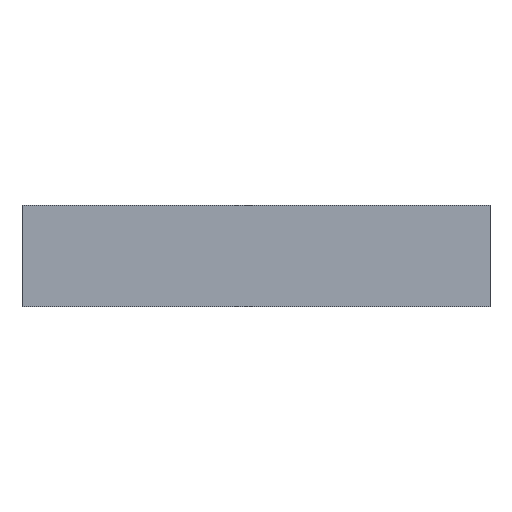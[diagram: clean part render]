
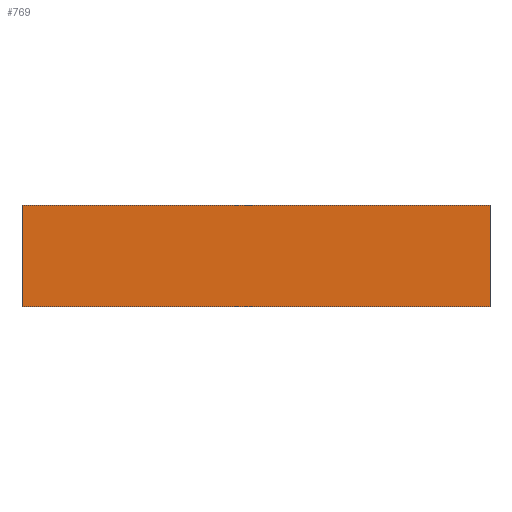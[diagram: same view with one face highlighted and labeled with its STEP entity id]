
A CAD part, front view. The second image highlights one B-rep face of the part: STEP entity #769.
In plain terms, the highlighted planar face has unit normal (0, -1, 0).
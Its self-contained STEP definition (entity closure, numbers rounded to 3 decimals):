
#7 = VECTOR ( 'NONE', #393, 1000. ) ;
#28 = LINE ( 'NONE', #396, #7 ) ;
#72 = ORIENTED_EDGE ( 'NONE', *, *, #569, .T. ) ;
#73 = ORIENTED_EDGE ( 'NONE', *, *, #553, .F. ) ;
#74 = ORIENTED_EDGE ( 'NONE', *, *, #576, .F. ) ;
#75 = ORIENTED_EDGE ( 'NONE', *, *, #570, .T. ) ;
#242 = DIRECTION ( 'NONE',  ( -1., 0., 0. ) ) ;
#243 = DIRECTION ( 'NONE',  ( 0., 1., 0. ) ) ;
#244 = CARTESIAN_POINT ( 'NONE',  ( 150., 0., 0. ) ) ;
#251 = CARTESIAN_POINT ( 'NONE',  ( -150., 0., 65. ) ) ;
#256 = PLANE ( 'NONE',  #627 ) ;
#305 = CARTESIAN_POINT ( 'NONE',  ( -150., 0., 0. ) ) ;
#319 = DIRECTION ( 'NONE',  ( 0., 0., -1. ) ) ;
#341 = DIRECTION ( 'NONE',  ( 1., 0., 0. ) ) ;
#342 = CARTESIAN_POINT ( 'NONE',  ( 150., 0., 65. ) ) ;
#343 = DIRECTION ( 'NONE',  ( 0., 0., -1. ) ) ;
#344 = CARTESIAN_POINT ( 'NONE',  ( -150., 0., 65. ) ) ;
#351 = CARTESIAN_POINT ( 'NONE',  ( -150., 0., 0. ) ) ;
#353 = CARTESIAN_POINT ( 'NONE',  ( 150., 0., 65. ) ) ;
#393 = DIRECTION ( 'NONE',  ( 1., 0., 0. ) ) ;
#396 = CARTESIAN_POINT ( 'NONE',  ( -150., 0., 65. ) ) ;
#475 = CARTESIAN_POINT ( 'NONE',  ( -150., 0., 65. ) ) ;
#482 = VERTEX_POINT ( 'NONE', #353 ) ;
#489 = VERTEX_POINT ( 'NONE', #305 ) ;
#494 = VERTEX_POINT ( 'NONE', #244 ) ;
#504 = VERTEX_POINT ( 'NONE', #475 ) ;
#553 = EDGE_CURVE ( 'NONE', #504, #482, #28, .T. ) ;
#569 = EDGE_CURVE ( 'NONE', #504, #489, #740, .T. ) ;
#570 = EDGE_CURVE ( 'NONE', #489, #494, #748, .T. ) ;
#576 = EDGE_CURVE ( 'NONE', #482, #494, #725, .T. ) ;
#627 = AXIS2_PLACEMENT_3D ( 'NONE', #251, #243, #242 ) ;
#671 = FACE_OUTER_BOUND ( 'NONE', #867, .T. ) ;
#725 = LINE ( 'NONE', #342, #730 ) ;
#730 = VECTOR ( 'NONE', #319, 1000. ) ;
#738 = VECTOR ( 'NONE', #341, 1000. ) ;
#739 = VECTOR ( 'NONE', #343, 1000. ) ;
#740 = LINE ( 'NONE', #344, #739 ) ;
#748 = LINE ( 'NONE', #351, #738 ) ;
#769 = ADVANCED_FACE ( 'NONE', ( #671 ), #256, .F. ) ;
#867 = EDGE_LOOP ( 'NONE', ( #75, #74, #73, #72 ) ) ;
